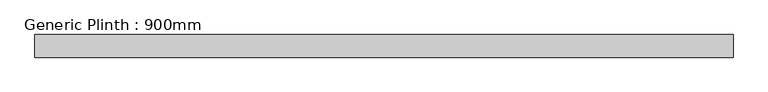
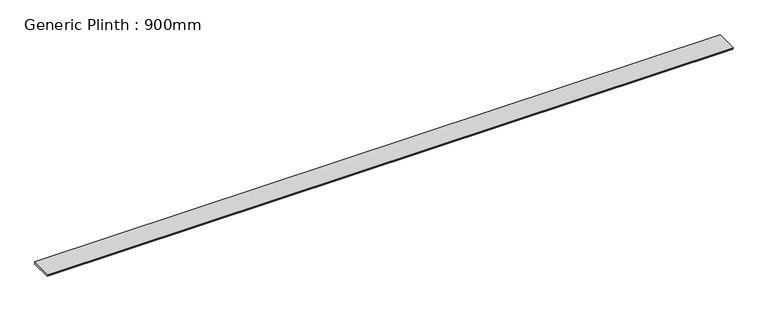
"""IFC4 building model written with IfcOpenShell, lengths in millimetres: furniture geometry, Generic Plinth : 900mm."""

from ifc_helpers import new_model, si_unit, frame, origin, place, context, project, spatial, polyline, outline, extrude, source, transform, mapped, element, save


def generic_plinth_900mm_f1ea148c(model_context):
    return source(origin(), model_context, "Body", "SweptSolid", [
        extrude(outline(polyline([(-900.0, 81.0), (-900.0, 100.0), (0.0, 100.0), (0.0, 0.0), (-865.0, 0.0), (-865.0, 81.0), (-900.0, 81.0)])), frame((-13856.2622951, 0.0, 0.0), z_axis=(1.0, 0.0, 0.0), x_axis=(0.0, 1.0, 0.0)), (0.0, 0.0, 1.0), 27750.0),
    ])


if __name__ == "__main__":
    model = new_model("IFC4")
    model_context = context("Model", 3, world=origin())
    ifc_project = project(units=[si_unit("LENGTHUNIT", "METRE", prefix="MILLI")], contexts=[model_context])
    site = spatial("IfcSite", under=ifc_project)
    building = spatial("IfcBuilding", under=site)
    placement = place(None, origin())
    generic_plinth_900mm_shape = generic_plinth_900mm_f1ea148c(model_context)
    element("IfcFurniture", 1, ObjectType="Generic Plinth : 900mm", at=placement, inside=building, context=model_context, shape_type="MappedRepresentation", body=[
        mapped(generic_plinth_900mm_shape, transform((0.0, 0.0, 0.0), x_axis=(1.0, 0.0, 0.0), y_axis=(0.0, 1.0, 0.0), z_axis=(0.0, 0.0, 1.0))),
    ])
    save(model, "model.ifc")
